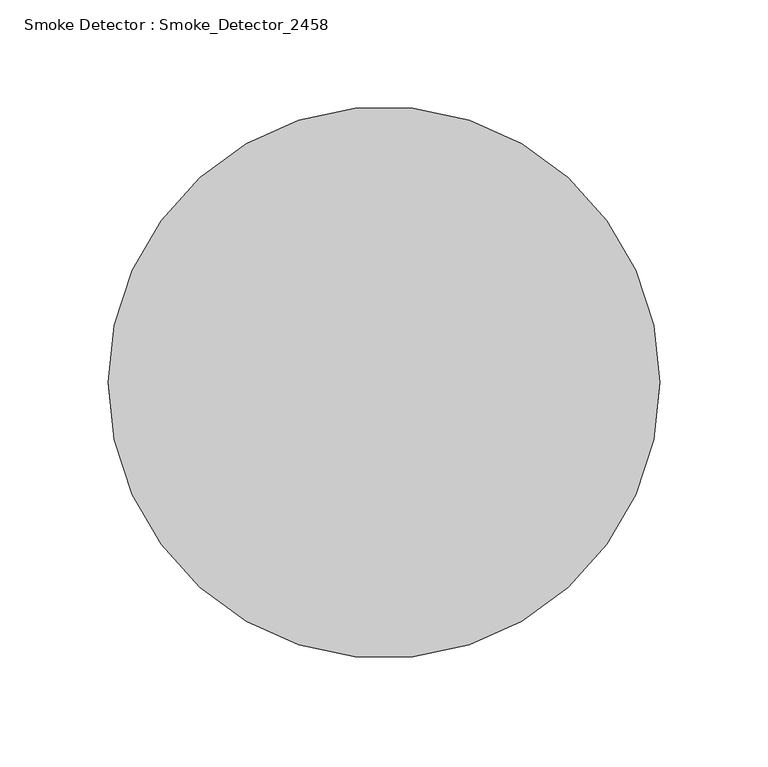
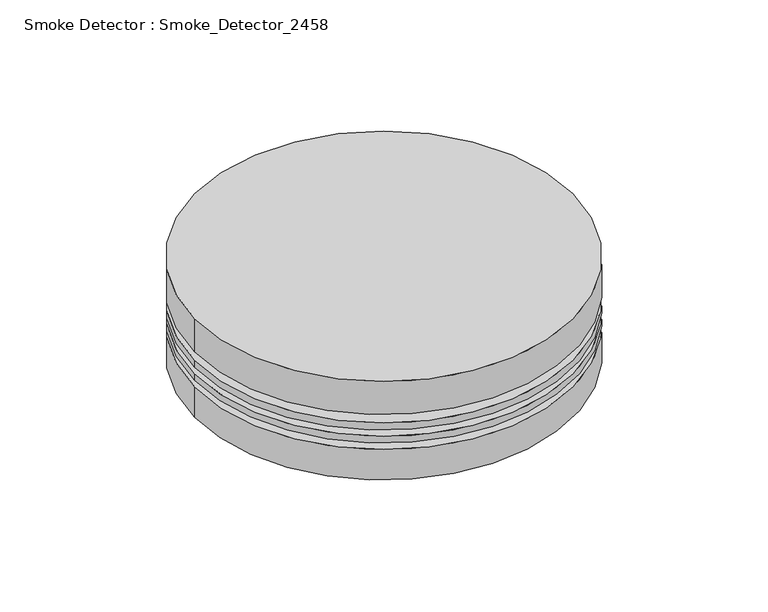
"""IFC4 building model written with IfcOpenShell, lengths in millimetres: proxy geometry, Smoke Detector : Smoke_Detector_2458."""

from ifc_helpers import new_model, si_unit, point, frame, frame_2d, origin, origin_2d, place, context, project, spatial, circle_curve, trimmed, segment, composite_curve, outline, extrude, source, transform, mapped, element, save


def smoke_detector_smoke_detector_2458_231b9623(model_context):
    return source(origin(), model_context, "Body", "SweptSolid", [
        extrude(outline(composite_curve([segment(trimmed(circle_curve(origin_2d(), 127.0), [point((-127.0, 0.0))], [point((127.0, 0.0))], False, "CARTESIAN"), True, "CONTINUOUS"), segment(trimmed(circle_curve(origin_2d(), 127.0), [point((127.0, 0.0))], [point((-127.0, 0.0))], False, "CARTESIAN"), True, "CONTINUOUS")], self_intersect=False)), frame((0.0, 0.0, 2403.7575219), z_axis=(0.0, 0.0, 1.0), x_axis=(1.0, 0.0, 0.0)), (0.0, 0.0, 1.0), 5.1760655),
        extrude(outline(composite_curve([segment(trimmed(circle_curve(origin_2d(), 82.55), [point((-82.55, 0.0))], [point((82.55, 0.0))], False, "CARTESIAN"), True, "CONTINUOUS"), segment(trimmed(circle_curve(origin_2d(), 82.55), [point((82.55, 0.0))], [point((-82.55, 0.0))], False, "CARTESIAN"), True, "CONTINUOUS")], self_intersect=False)), frame((0.0, 0.0, 2399.4272), z_axis=(0.0, 0.0, 1.0), x_axis=(1.0, 0.0, 0.0)), (0.0, 0.0, 1.0), 4.3303219),
        extrude(outline(composite_curve([segment(trimmed(circle_curve(origin_2d(), 127.0), [point((-127.0, 0.0))], [point((127.0, 0.0))], False, "CARTESIAN"), True, "CONTINUOUS"), segment(trimmed(circle_curve(origin_2d(), 127.0), [point((127.0, 0.0))], [point((-127.0, 0.0))], False, "CARTESIAN"), True, "CONTINUOUS")], self_intersect=False)), frame((0.0, 0.0, 2394.6479926), z_axis=(0.0, 0.0, 1.0), x_axis=(1.0, 0.0, 0.0)), (0.0, 0.0, 1.0), 4.7792073),
        extrude(outline(composite_curve([segment(trimmed(circle_curve(origin_2d(), 82.55), [point((-82.55, 0.0))], [point((82.55, 0.0))], False, "CARTESIAN"), True, "CONTINUOUS"), segment(trimmed(circle_curve(origin_2d(), 82.55), [point((82.55, 0.0))], [point((-82.55, 0.0))], False, "CARTESIAN"), True, "CONTINUOUS")], self_intersect=False)), frame((0.0, 0.0, 2389.9625198), z_axis=(0.0, 0.0, 1.0), x_axis=(1.0, 0.0, 0.0)), (0.0, 0.0, 1.0), 4.6854728),
        extrude(outline(composite_curve([segment(trimmed(circle_curve(origin_2d(), 127.0), [point((-127.0, 0.0))], [point((127.0, 0.0))], False, "CARTESIAN"), True, "CONTINUOUS"), segment(trimmed(circle_curve(origin_2d(), 127.0), [point((127.0, 0.0))], [point((-127.0, 0.0))], False, "CARTESIAN"), True, "CONTINUOUS")], self_intersect=False)), frame((0.0, 0.0, 2368.3465604), z_axis=(0.0, 0.0, 1.0), x_axis=(1.0, 0.0, 0.0)), (0.0, 0.0, 1.0), 21.6159594),
        extrude(outline(composite_curve([segment(trimmed(circle_curve(frame_2d((76.3562758, 0.0)), 12.7), [point((63.6562758, 0.0))], [point((89.0562758, 0.0))], False, "CARTESIAN"), True, "CONTINUOUS"), segment(trimmed(circle_curve(frame_2d((76.3562758, 0.0)), 12.7), [point((89.0562758, 0.0))], [point((63.6562758, 0.0))], False, "CARTESIAN"), True, "CONTINUOUS")], self_intersect=False)), frame((0.0, 0.0, 2368.3465604), z_axis=(0.0, 0.0, 1.0), x_axis=(1.0, 0.0, 0.0)), (0.0, 0.0, 1.0), 4.8648358),
        extrude(outline(composite_curve([segment(trimmed(circle_curve(origin_2d(), 88.9), [point((-88.9, 0.0))], [point((88.9, 0.0))], False, "CARTESIAN"), True, "CONTINUOUS"), segment(trimmed(circle_curve(origin_2d(), 88.9), [point((88.9, 0.0))], [point((-88.9, 0.0))], False, "CARTESIAN"), True, "CONTINUOUS")], self_intersect=False)), frame((0.0, 0.0, 2408.9335874), z_axis=(0.0, 0.0, 1.0), x_axis=(1.0, 0.0, 0.0)), (0.0, 0.0, 1.0), 5.9155034),
        extrude(outline(composite_curve([segment(trimmed(circle_curve(origin_2d(), 127.0), [point((-127.0, 0.0))], [point((127.0, 0.0))], False, "CARTESIAN"), True, "CONTINUOUS"), segment(trimmed(circle_curve(origin_2d(), 127.0), [point((127.0, 0.0))], [point((-127.0, 0.0))], False, "CARTESIAN"), True, "CONTINUOUS")], self_intersect=False)), frame((0.0, 0.0, 2414.8490908), z_axis=(0.0, 0.0, 1.0), x_axis=(1.0, 0.0, 0.0)), (0.0, 0.0, 1.0), 23.5509092),
    ])


if __name__ == "__main__":
    model = new_model("IFC4")
    model_context = context("Model", 3, world=origin())
    ifc_project = project(units=[si_unit("LENGTHUNIT", "METRE", prefix="MILLI")], contexts=[model_context])
    site = spatial("IfcSite", under=ifc_project)
    building = spatial("IfcBuilding", under=site)
    placement = place(None, origin())
    smoke_detector_smoke_detector_2458_shape = smoke_detector_smoke_detector_2458_231b9623(model_context)
    element("IfcBuildingElementProxy", 1, Name="Smoke Detector : Smoke_Detector_2458", ObjectType="Smoke Detector : Smoke_Detector_2458", at=placement, inside=building, context=model_context, shape_type="MappedRepresentation", body=[
        mapped(smoke_detector_smoke_detector_2458_shape, transform((0.0, 0.0, 0.0), x_axis=(1.0, 0.0, 0.0), y_axis=(0.0, 1.0, 0.0), z_axis=(0.0, 0.0, 1.0))),
    ])
    save(model, "model.ifc")
